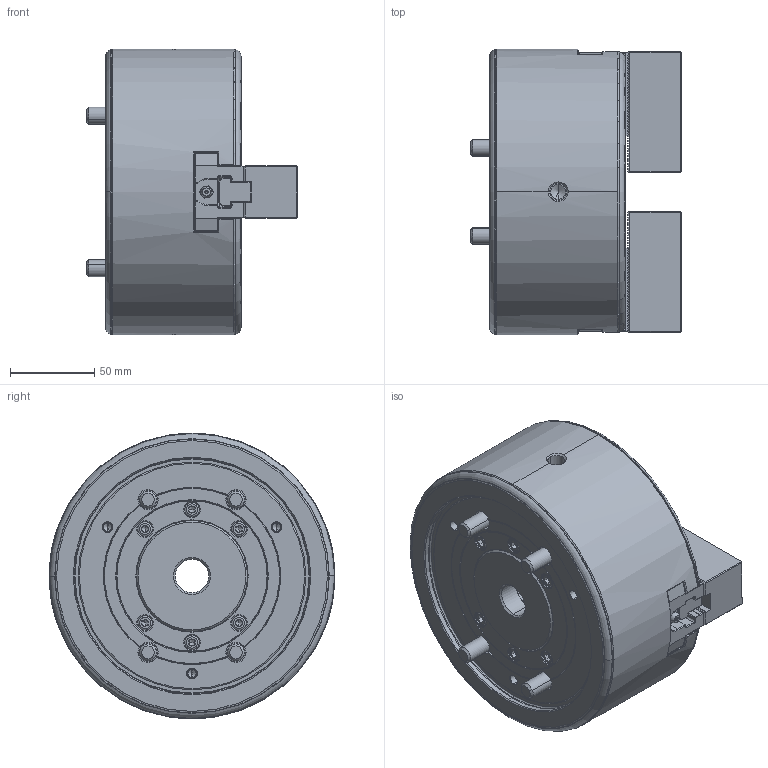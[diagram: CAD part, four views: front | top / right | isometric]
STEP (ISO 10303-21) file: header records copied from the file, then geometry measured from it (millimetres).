
FILE_DESCRIPTION (( 'STEP AP214' ), '1' );
FILE_NAME ('BRT06_OC.STEP', '2022-06-20T04:16:08', ( '' ), ( '' ), 'SwSTEP 2.0', 'SolidWorks 2020', '' );
FILE_SCHEMA (( 'AUTOMOTIVE_DESIGN' ));
Length unit declared in the file: millimetre
Products named in the file (5): Part9^BRT06-Nishi08 クミタテ; BRT06_OC; Bアナツキ M10×25; BR06-Nishi08 Tナット-Plus_61P447483-改正2 BB206 Tﾅｯﾄ-分割; BRT06-61P314547-4(SJ06A1T) ソフトジョー_SJ06A1T-ﾃﾞﾌｫﾙﾄ-Design
Assembly tree (9 placements, depth 2):
  BRT06_OC
    BRT06-61P314547-4(SJ06A1T) ソフトジョー_SJ06A1T-ﾃﾞﾌｫﾙﾄ-Design  x2
    BR06-Nishi08 Tナット-Plus_61P447483-改正2 BB206 Tﾅｯﾄ-分割  x2
    Bアナツキ M10×25  x4
    Part9^BRT06-Nishi08 クミタテ
Bounding box: 125.2 x 170 x 170 mm (x, y, z)
Volume: 1706362.6 mm3; surface area: 192191.4 mm2
Topology: 9 solids, 23 shells, 2825 faces, 7561 edges, 4840 vertices
Faces by surface type: plane 1930, cylinder 393, cone 287, bspline 126, torus 81, sphere 8
Entity records: 77691 total; most frequent: CARTESIAN_POINT 19128, ORIENTED_EDGE 12494, DIRECTION 11519, EDGE_CURVE 6247, LINE 4503, VECTOR 4503, VERTEX_POINT 4023, AXIS2_PLACEMENT_3D 3508
